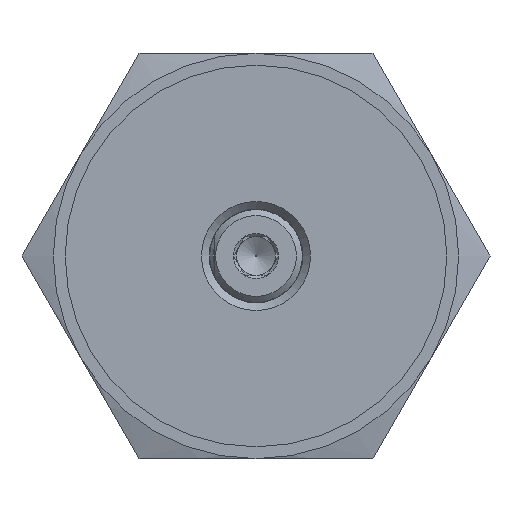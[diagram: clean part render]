
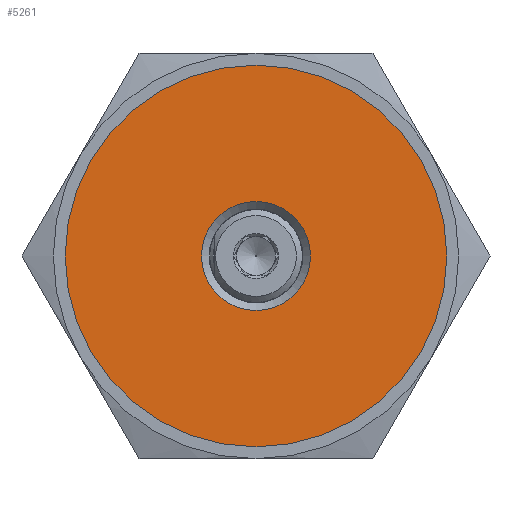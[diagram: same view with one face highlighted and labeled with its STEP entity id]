
A CAD part, left-side view. The second image highlights one B-rep face of the part: STEP entity #5261.
In plain terms, the highlighted planar face has unit normal (-1, 0, 0).
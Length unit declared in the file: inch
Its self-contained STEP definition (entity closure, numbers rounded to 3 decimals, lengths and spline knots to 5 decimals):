
#5227=CARTESIAN_POINT('',(-3.11,-0.765,0.));
#5228=VERTEX_POINT('',#5227);
#5229=CARTESIAN_POINT('',(-3.11,0.0,0.));
#5230=DIRECTION('',(-1.0,0.0,0.0));
#5231=DIRECTION('',(0.0,-1.0,0.0));
#5232=AXIS2_PLACEMENT_3D('',#5229,#5230,#5231);
#5233=CIRCLE('',#5232,0.765);
#5234=EDGE_CURVE('',#5228,#5228,#5233,.T.);
#5242=CARTESIAN_POINT('',(-3.11,-0.49175,0.));
#5243=DIRECTION('',(-1.0,0.0,0.0));
#5244=DIRECTION('',(0.0,0.0,1.0));
#5245=AXIS2_PLACEMENT_3D('',#5242,#5243,#5244);
#5246=PLANE('',#5245);
#5247=ORIENTED_EDGE('',*,*,#5234,.T.);
#5248=EDGE_LOOP('',(#5247));
#5249=FACE_OUTER_BOUND('',#5248,.T.);
#5250=CARTESIAN_POINT('',(-3.11,-0.2185,0.));
#5251=VERTEX_POINT('',#5250);
#5252=CARTESIAN_POINT('',(-3.11,0.0,0.));
#5253=DIRECTION('',(-1.0,0.0,0.0));
#5254=DIRECTION('',(0.0,-1.0,0.0));
#5255=AXIS2_PLACEMENT_3D('',#5252,#5253,#5254);
#5256=CIRCLE('',#5255,0.2185);
#5257=EDGE_CURVE('',#5251,#5251,#5256,.T.);
#5258=ORIENTED_EDGE('',*,*,#5257,.F.);
#5259=EDGE_LOOP('',(#5258));
#5260=FACE_BOUND('',#5259,.T.);
#5261=ADVANCED_FACE('',(#5249,#5260),#5246,.T.);
